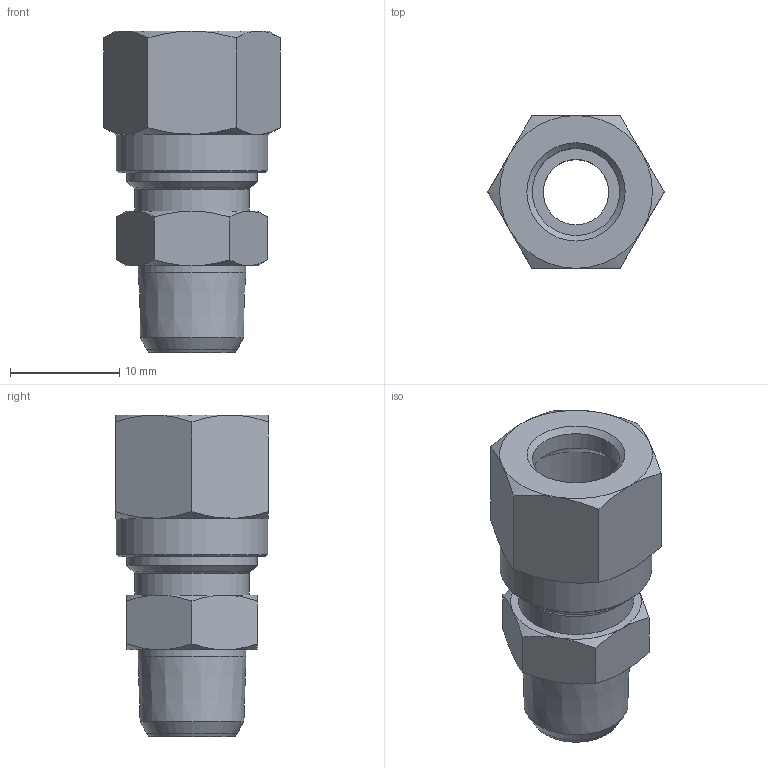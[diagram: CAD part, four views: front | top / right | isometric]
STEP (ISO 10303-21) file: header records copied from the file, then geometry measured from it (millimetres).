
FILE_DESCRIPTION(('Bauteilbeschreibung','HiCAD-Model','HiCAD-STEP-TRANSLATION','Bauteilbeschreibung'),'2;1');
FILE_NAME('B:/ABGLEICH/ZEICHNUNGEN/STEP FÜR INTERNET/STEP/201/94804_201_8_1-8.STP','2011-10-24T07:48:46+00:00',('Konstrukteur'),('Konstrukteur Firma GmbH'),' HiCAD neXt 2008, Step 3.1.1401.2J ','HiCAD neXt 2008','confidential');
FILE_SCHEMA(('AUTOMOTIVE_DESIGN { 1 2 10303 214 0 1 1 1 }'));
Length unit declared in the file: millimetre
Products named in the file (8): A4804_201_8_1_8; A4804; A48040; R 1_8; DIN 13_M12X1; A6803; A68030; DIN0130M12X1
Assembly tree (7 placements, depth 3):
  A4804_201_8_1_8
    A4804
    A48040
      R 1_8
      DIN 13_M12X1
    A6803
    A68030
      DIN0130M12X1
Bounding box: 16.17 x 14 x 29.5 mm (x, y, z)
Volume: 2323 mm3; surface area: 4081.6 mm2
Topology: 5 solids, 5 shells, 69 faces, 146 edges, 89 vertices
Faces by surface type: cone 33, plane 24, cylinder 12
Full cylindrical faces by diameter (mm): 6 x1, 8 x2, 9.884 x1, 10.5 x1, 10.773 x3, 12 x3, 13.9 x1
Entity records: 2342 total; most frequent: CARTESIAN_POINT 355, DIRECTION 288, ORIENTED_EDGE 218, AXIS2_PLACEMENT_3D 138, COLOUR_RGB 114, PRESENTATION_STYLE_ASSIGNMENT 114, CURVE_STYLE 109, DRAUGHTING_PRE_DEFINED_CURVE_FONT 109
